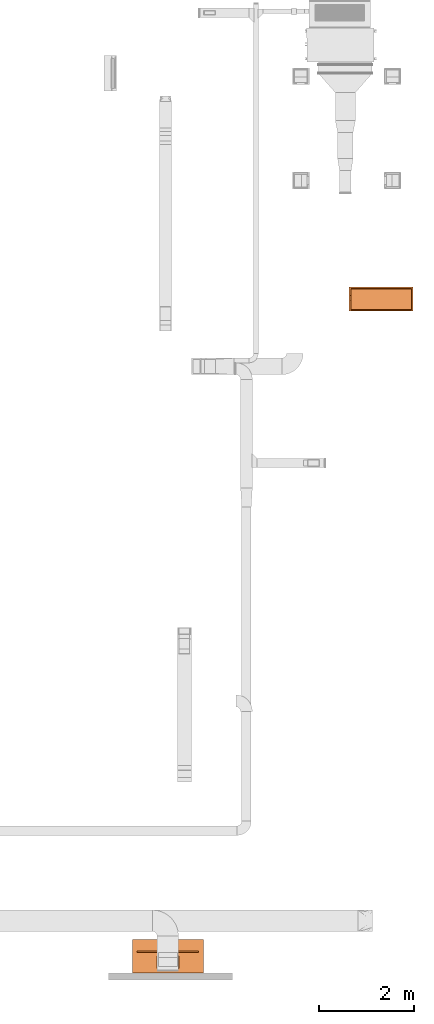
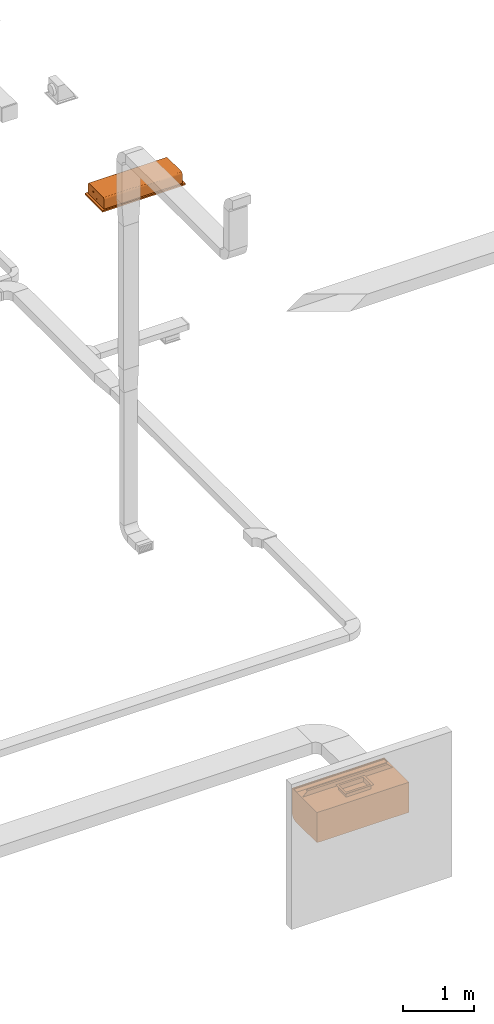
# One storey, part 20 of 22: 2 proxies.
"""IFC2X3 building model written with IfcOpenShell, lengths in millimetres."""

from ifc_helpers import new_model, entity, si_unit, converted_unit, derived_unit, direction, frame, frame_2d, origin, origin_2d_with_axis, place, context, subcontext, project, spatial, polyline, circle_curve, parameter, trimmed, segment, composite_curve, rectangle, circle, outline, extrude, source, transform, mapped, material, material_list, type_object, type_shapes, element, save


model = new_model("IFC2X3")

# Units and contexts
model_context = context("Model", 3, precision=0.01, world=origin(), true_north=direction((6.123233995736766e-17, 1.0)))
body_context = subcontext(model_context, "Body", "Model", "MODEL_VIEW")
ifc_project = project(units=[si_unit("LENGTHUNIT", "METRE", prefix="MILLI"), converted_unit("PLANEANGLEUNIT", "DEGREE", entity("IfcPlaneAngleMeasure", 0.017453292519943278), si_unit("PLANEANGLEUNIT", "RADIAN"), dimensions=[0, 0, 0, 0, 0, 0, 0]), si_unit("AREAUNIT", "SQUARE_METRE"), derived_unit("THERMALTRANSMITTANCEUNIT", [(si_unit("MASSUNIT", "GRAM", prefix="KILO"), 1), (si_unit("THERMODYNAMICTEMPERATUREUNIT", "KELVIN"), -1), (si_unit("TIMEUNIT", "SECOND"), -3)])], contexts=[model_context])

# Site, building, storey
site_placement = place(None, origin())
site = spatial("IfcSite", under=ifc_project, at=site_placement, Name="Default", CompositionType="ELEMENT")
building_placement = place(site_placement, origin())
building = spatial("IfcBuilding", under=site, at=building_placement, Name="Praça Pedro II, 1301 - Centro (Sul), Teresina - PI, 64001-100", CompositionType="ELEMENT")
storey_placement = place(building_placement, frame((0.0, 0.0, 320.0)))
storey = spatial("IfcBuildingStorey", under=building, at=storey_placement, Name="TÉRREO +0.32m", CompositionType="ELEMENT", Elevation=319.99999999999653)

# Proxies
ifc_material_1 = material(Name="grilles：ABS/HIPS")
building_element_proxy_type_1 = type_object("IfcBuildingElementProxyType", Name="V8 One-way cassette 4.5-7.1kW Revit:7.1kW", PredefinedType="NOTDEFINED", material=ifc_material_1)
shared_shape_1 = source(origin(), body_context, "Body", "SweptSolid", [
    extrude(circle(Radius=12.5, at=frame_2d((0.0, -1.6919798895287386e-14), x_axis=(1.0, 0.0))), frame((-564.3577958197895, 76.32030627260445, 144.0), z_axis=(1.0, 0.0, 0.0), x_axis=(0.0, -1.0, 0.0)), (0.0, 0.0, 1.0), 45.78156809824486),
    extrude(circle(Radius=3.1749999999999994, at=origin_2d_with_axis()), frame((-564.3577958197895, 25.48785540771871, 76.0), z_axis=(1.0, 0.0, 0.0), x_axis=(0.0, -1.0, 0.0)), (0.0, 0.0, 1.0), 45.78156809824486),
    extrude(circle(Radius=6.35, at=frame_2d((0.0, -8.459899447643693e-15), x_axis=(1.0, 0.0))), frame((-564.3577958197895, -24.474937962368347, 76.0), z_axis=(1.0, 0.0, 0.0), x_axis=(0.0, -1.0, 0.0)), (0.0, 0.0, 1.0), 45.78156809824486),
    extrude(rectangle(XDim=1349.9999999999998, YDim=505.0000000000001, at=frame_2d((0.0, -2.842170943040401e-14), x_axis=(1.0, 0.0))), frame((85.0, 0.0, 0.0), z_axis=(0.0, 0.0, 1.0), x_axis=(-1.0, 0.0, 0.0)), (0.0, 0.0, 1.0), 24.999999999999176),
    extrude(outline(composite_curve([segment(trimmed(circle_curve(frame_2d((196.0, 43.0), x_axis=(1.0, 0.0)), 29.99999999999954), [parameter(359.99999999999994)], [parameter(89.99999999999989)], True, "PARAMETER"), True, "CONTINUOUS"), segment(polyline([(196.0, 73.0), (-196.0, 73.0)]), True, "CONTINUOUS"), segment(trimmed(circle_curve(frame_2d((-196.0, 43.0), x_axis=(1.0, 0.0)), 30.00000000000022), [parameter(89.99999999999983)], [parameter(180.0000000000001)], True, "PARAMETER"), True, "CONTINUOUS"), segment(polyline([(-226.0, 43.0), (-226.0, -116.0)]), True, "CONTINUOUS"), segment(polyline([(-226.0, -116.0), (226.0, -116.0)]), True, "CONTINUOUS"), segment(polyline([(226.0, -116.0), (226.0, 43.0)]), True, "CONTINUOUS")], self_intersect=False)), frame((-552.5000000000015, 0.0, 141.0), z_axis=(1.0, 0.0, 0.0), x_axis=(0.0, 1.0, 0.0)), (0.0, 0.0, 1.0), 1274.9999999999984),
])
type_shapes(building_element_proxy_type_1, [shared_shape_1])
proxy_1_placement = place(storey_placement, frame((38254.77433639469, -57564.853669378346, 2015.0)))
element("IfcBuildingElementProxy", 1, at=proxy_1_placement, inside=storey, type_object=building_element_proxy_type_1, material=ifc_material_1, Name="V8 One-way cassette 4.5-7.1kW Revit:7.1kW", ObjectType="V8 One-way cassette 4.5-7.1kW Revit:7.1kW", context=body_context, shape_type="MappedRepresentation", body=[
    mapped(shared_shape_1, transform((0.0, 0.0, 0.0), scale=1.0)),
])
ifc_material_2 = material(Name="INOX ESCOVADO")
ifc_material_3 = material(Name="INOX")
ifc_material_list = material_list([ifc_material_2, ifc_material_3])
building_element_proxy_type_2 = type_object("IfcBuildingElementProxyType", Name="MULT VORTEX PAREDE:Tipo 1", PredefinedType="NOTDEFINED", material=ifc_material_list)
shared_shape_2 = source(origin(), body_context, "Body", "SweptSolid", [
    extrude(outline(polyline([(-44.72085325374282, -51.813213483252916), (395.59173783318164, -51.813213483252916), (395.59173783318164, -31.813213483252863), (-40.651807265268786, -31.813213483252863), (-84.4200042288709, -13.234716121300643), (-104.66099513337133, 34.79267808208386), (-84.25737742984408, 34.79267808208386), (-84.25737742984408, 54.79267808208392), (-124.25737742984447, 54.79267808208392), (-124.25737742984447, 29.792678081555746), (-99.70030606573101, -28.475820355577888), (-44.72085325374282, -51.813213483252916)])), frame((-740.0000000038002, 723.1867865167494, 2024.2573774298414), z_axis=(1.0, 0.0, 0.0), x_axis=(0.0, 0.0, 1.0)), (0.0, 0.0, 1.0), 1480.0000000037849),
    extrude(outline(polyline([(-111.0954468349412, -250.82388078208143), (329.21714425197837, -250.82388078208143), (329.21714425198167, 449.1761192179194), (-190.6319710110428, 449.17611921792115), (-190.6319710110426, -169.217989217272), (-166.0748996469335, -227.48648765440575), (-111.0954468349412, -250.82388078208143)])), frame((740.0, 524.1761192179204, 2090.6319710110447), z_axis=(1.0, 0.0, 0.0), x_axis=(0.0, 0.0, 1.0)), (0.0, 0.0, 1.0), 10.000000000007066),
    extrude(outline(polyline([(-250.82388078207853, -329.2171442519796), (449.17611921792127, -329.2171442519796), (449.1761192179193, 190.63197101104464), (-169.2179892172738, 190.63197101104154), (-227.48648765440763, 166.07489964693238), (-250.82388078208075, 111.09544683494), (-250.82388078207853, -329.2171442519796)])), frame((-750.0, 524.1761192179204, 2090.6319710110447), z_axis=(1.0, 0.0, 0.0), x_axis=(0.0, -1.0, 0.0)), (0.0, 0.0, 1.0), 9.99999999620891),
    extrude(outline(polyline([(-282.5005735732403, -131.17604832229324), (320.00974507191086, -131.17604832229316), (377.9344190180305, -77.1604160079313), (-17.62462981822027, 347.0247309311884), (-397.8189606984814, -7.512218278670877), (-282.5005735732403, -131.17604832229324)])), frame((-740.0000000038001, 340.8177901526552, 2196.068656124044), z_axis=(1.0, 0.0, 0.0), x_axis=(0.0, 0.6819983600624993, 0.7313537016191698)), (0.0, 0.0, 1.0), 1480.0000000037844),
    extrude(rectangle(XDim=1480.0000000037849, YDim=99.99999999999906, at=origin_2d_with_axis()), frame((-1.907605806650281e-09, 705.0, 2389.8491152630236), z_axis=(0.0, 0.0, 1.0), x_axis=(-1.0, 0.0, 0.0)), (0.0, 0.0, 1.0), 14.999999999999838),
    extrude(outline(polyline([(-205.0, -105.0), (205.0, -105.0), (205.0, 105.0), (-205.0, 105.0), (-205.0, -105.0)]), holes=[polyline([(-200.0, -100.0), (-200.0, 100.0), (200.0, 100.0), (200.0, -100.0), (-200.0, -100.0)])]), frame((0.0, 305.0, 2419.8491152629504), z_axis=(0.0, 0.0, 1.0), x_axis=(-1.0, 0.0, 0.0)), (0.0, 0.0, 1.0), 79.99999999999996),
    extrude(outline(polyline([(-232.0, -132.0), (232.0, -132.0), (232.0, 132.0), (-232.0, 132.0), (-232.0, -132.0)]), holes=[polyline([(205.0, 100.0), (205.0, -100.0), (-200.0, -100.0), (-200.0, 100.0), (205.0, 100.0)])]), frame((0.0, 305.0, 2494.849115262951), z_axis=(0.0, 0.0, 1.0), x_axis=(-1.0, 0.0, 0.0)), (0.0, 0.0, 1.0), 4.999999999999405),
    extrude(outline(polyline([(432.04224330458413, -488.6107857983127), (545.1793282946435, -488.6107857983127), (-488.6107857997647, 545.1793282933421), (-488.6107857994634, 432.0422433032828), (432.04224330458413, -488.6107857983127)])), frame((2.0847899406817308e-09, 505.0, 2459.849115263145), z_axis=(0.0, 1.0, 0.0), x_axis=(0.7071067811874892, 0.0, -0.707106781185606)), (0.0, 0.0, 1.0), 5.000000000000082),
    extrude(outline(polyline([(-10.666666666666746, -6.666666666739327), (16.333333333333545, -6.666666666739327), (16.333333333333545, -1.6666666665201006), (-5.666666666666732, -1.6666666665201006), (-5.666666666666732, 8.33333333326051), (-10.666666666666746, 8.33333333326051), (-10.666666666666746, -6.666666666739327)])), frame((-650.9999999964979, 526.3333333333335, 2493.1824485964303), z_axis=(1.0, 0.0, 0.0), x_axis=(0.0, -1.0, 0.0)), (0.0, 0.0, 1.0), 1301.999999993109),
    extrude(circle(Radius=15.0, at=origin_2d_with_axis()), frame((690.2810791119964, 136.0, 1884.9989660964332), z_axis=(0.0, 0.0, 1.0), x_axis=(0.0, -1.0, 0.0)), (0.0, 0.0, 1.0), 15.00000000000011),
])
type_shapes(building_element_proxy_type_2, [shared_shape_2])
proxy_2_placement = place(storey_placement, frame((33836.81288258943, -71866.28932437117, -670.0508839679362)))
element("IfcBuildingElementProxy", 2, at=proxy_2_placement, inside=storey, type_object=building_element_proxy_type_2, material=ifc_material_list, Name="MULT VORTEX PAREDE:Tipo 1", ObjectType="MULT VORTEX PAREDE:Tipo 1", context=body_context, shape_type="MappedRepresentation", body=[
    mapped(shared_shape_2, transform((0.0, 0.0, 0.0), scale=1.0)),
])

save(model, "model.ifc")
